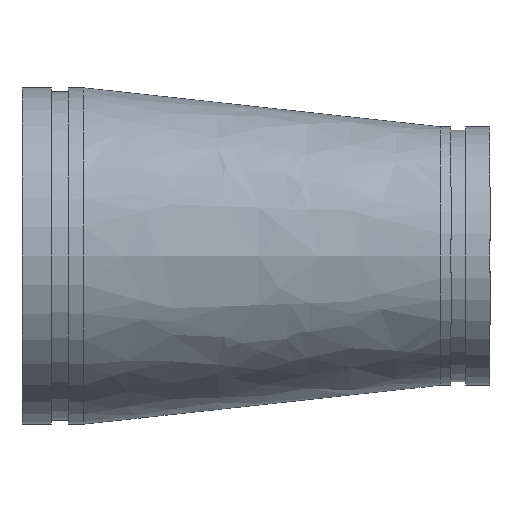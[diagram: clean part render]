
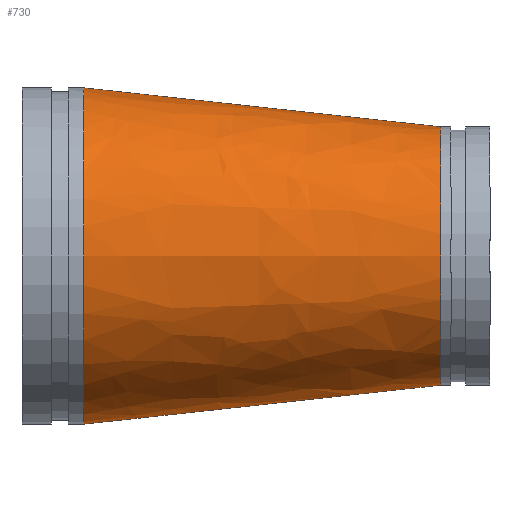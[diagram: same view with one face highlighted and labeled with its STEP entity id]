
A CAD part, front view. The second image highlights one B-rep face of the part: STEP entity #730.
In plain terms, the highlighted free-form (B-spline) face has degree [1, 2] with [2, 9] control points.
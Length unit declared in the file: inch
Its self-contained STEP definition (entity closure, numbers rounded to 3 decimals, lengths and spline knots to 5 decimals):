
#58=B_SPLINE_CURVE_WITH_KNOTS('',1,(#1370,#1371),.UNSPECIFIED.,.F.,.F.,
(2,2),(-2.15004,-0.00126),.UNSPECIFIED.);
#60=(
BOUNDED_SURFACE()
B_SPLINE_SURFACE(1,2,((#1348,#1349,#1350,#1351,#1352,#1353,#1354,#1355,
#1356),(#1357,#1358,#1359,#1360,#1361,#1362,#1363,#1364,#1365)),
 .UNSPECIFIED.,.F.,.T.,.F.)
B_SPLINE_SURFACE_WITH_KNOTS((2,2),(3,2,2,2,3),(-0.10956,2.23196),
(-3.14159,-1.5708,0.,1.5708,3.14159),
 .UNSPECIFIED.)
GEOMETRIC_REPRESENTATION_ITEM()
RATIONAL_B_SPLINE_SURFACE(((1.,0.707,1.,0.707,1.,
0.707,1.,0.707,1.),(1.,0.707,1.,0.707,
1.,0.707,1.,0.707,1.)))
REPRESENTATION_ITEM('')
SURFACE()
);
#125=FACE_OUTER_BOUND('',#157,.T.);
#157=EDGE_LOOP('',(#600,#601,#602,#603,#604,#605,#606));
#241=CIRCLE('',#846,3.3125);
#242=CIRCLE('',#847,4.3125);
#243=CIRCLE('',#848,4.3125);
#244=CIRCLE('',#849,3.3125);
#245=CIRCLE('',#850,3.3125);
#322=VERTEX_POINT('',#1366);
#323=VERTEX_POINT('',#1367);
#324=VERTEX_POINT('',#1369);
#325=VERTEX_POINT('',#1372);
#326=VERTEX_POINT('',#1375);
#422=EDGE_CURVE('',#322,#323,#241,.T.);
#423=EDGE_CURVE('',#323,#324,#58,.T.);
#424=EDGE_CURVE('',#324,#325,#242,.T.);
#425=EDGE_CURVE('',#325,#324,#243,.T.);
#426=EDGE_CURVE('',#323,#326,#244,.T.);
#427=EDGE_CURVE('',#326,#322,#245,.T.);
#600=ORIENTED_EDGE('',*,*,#422,.T.);
#601=ORIENTED_EDGE('',*,*,#423,.T.);
#602=ORIENTED_EDGE('',*,*,#424,.T.);
#603=ORIENTED_EDGE('',*,*,#425,.T.);
#604=ORIENTED_EDGE('',*,*,#423,.F.);
#605=ORIENTED_EDGE('',*,*,#426,.T.);
#606=ORIENTED_EDGE('',*,*,#427,.T.);
#730=ADVANCED_FACE('',(#125),#60,.F.);
#846=AXIS2_PLACEMENT_3D('',#1368,#1073,#1074);
#847=AXIS2_PLACEMENT_3D('',#1373,#1075,#1076);
#848=AXIS2_PLACEMENT_3D('',#1374,#1077,#1078);
#849=AXIS2_PLACEMENT_3D('',#1376,#1079,#1080);
#850=AXIS2_PLACEMENT_3D('',#1377,#1081,#1082);
#1073=DIRECTION('center_axis',(-1.,0.,0.));
#1074=DIRECTION('ref_axis',(0.,-1.,0.));
#1075=DIRECTION('center_axis',(1.,0.,0.));
#1076=DIRECTION('ref_axis',(0.,1.,0.));
#1077=DIRECTION('center_axis',(1.,0.,0.));
#1078=DIRECTION('ref_axis',(0.,1.,0.));
#1079=DIRECTION('center_axis',(-1.,0.,0.));
#1080=DIRECTION('ref_axis',(0.,-1.,0.));
#1081=DIRECTION('center_axis',(-1.,0.,0.));
#1082=DIRECTION('ref_axis',(0.,-1.,0.));
#1348=CARTESIAN_POINT('Ctrl Pts',(1.1076,0.00076,
4.36378));
#1349=CARTESIAN_POINT('Ctrl Pts',(0.64221,-4.3125,4.36378));
#1350=CARTESIAN_POINT('Ctrl Pts',(0.64221,-4.3125,0.));
#1351=CARTESIAN_POINT('Ctrl Pts',(0.64221,-4.3125,-4.36378));
#1352=CARTESIAN_POINT('Ctrl Pts',(1.1076,0.00076,
-4.36378));
#1353=CARTESIAN_POINT('Ctrl Pts',(1.573,4.31403,-4.36378));
#1354=CARTESIAN_POINT('Ctrl Pts',(1.573,4.31403,0.));
#1355=CARTESIAN_POINT('Ctrl Pts',(1.573,4.31403,4.36378));
#1356=CARTESIAN_POINT('Ctrl Pts',(1.1076,0.00076,
4.36378));
#1357=CARTESIAN_POINT('Ctrl Pts',(11.08919,-1.07624,3.27416));
#1358=CARTESIAN_POINT('Ctrl Pts',(10.74,-4.3125,3.27416));
#1359=CARTESIAN_POINT('Ctrl Pts',(10.74,-4.3125,0.));
#1360=CARTESIAN_POINT('Ctrl Pts',(10.74,-4.3125,-3.27416));
#1361=CARTESIAN_POINT('Ctrl Pts',(11.08919,-1.07624,-3.27416));
#1362=CARTESIAN_POINT('Ctrl Pts',(11.43838,2.16002,-3.27416));
#1363=CARTESIAN_POINT('Ctrl Pts',(11.43838,2.16002,0.));
#1364=CARTESIAN_POINT('Ctrl Pts',(11.43838,2.16002,3.27416));
#1365=CARTESIAN_POINT('Ctrl Pts',(11.08919,-1.07624,3.27416));
#1366=CARTESIAN_POINT('',(10.74,-4.3125,0.));
#1367=CARTESIAN_POINT('',(10.74,-1.03856,3.31228));
#1368=CARTESIAN_POINT('Origin',(10.74,-1.,0.));
#1369=CARTESIAN_POINT('',(1.58,-0.05021,4.31221));
#1370=CARTESIAN_POINT('Ctrl Pts',(10.74,-1.03856,3.31228));
#1371=CARTESIAN_POINT('Ctrl Pts',(1.58,-0.05021,4.31221));
#1372=CARTESIAN_POINT('',(1.58,-4.3125,0.));
#1373=CARTESIAN_POINT('Origin',(1.58,0.,0.));
#1374=CARTESIAN_POINT('Origin',(1.58,0.,0.));
#1375=CARTESIAN_POINT('',(10.74,2.3125,0.));
#1376=CARTESIAN_POINT('Origin',(10.74,-1.,0.));
#1377=CARTESIAN_POINT('Origin',(10.74,-1.,0.));
